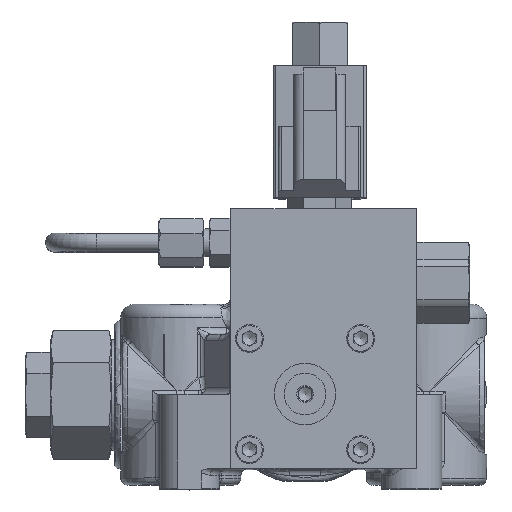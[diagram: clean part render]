
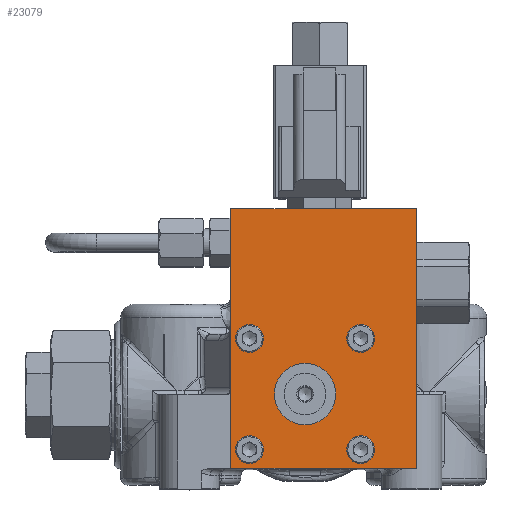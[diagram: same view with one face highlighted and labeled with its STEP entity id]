
A CAD part, top view. The second image highlights one B-rep face of the part: STEP entity #23079.
In plain terms, the highlighted planar face has unit normal (0, 0, 1).
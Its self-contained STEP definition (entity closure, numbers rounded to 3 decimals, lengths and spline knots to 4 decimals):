
#1216=FACE_BOUND('',#8044,.T.);
#1217=FACE_BOUND('',#8045,.T.);
#1218=FACE_BOUND('',#8046,.T.);
#1219=FACE_BOUND('',#8047,.T.);
#1220=FACE_BOUND('',#8048,.T.);
#2225=LINE('',#34582,#3719);
#2228=LINE('',#34587,#3722);
#2230=LINE('',#34591,#3724);
#2231=LINE('',#34592,#3725);
#3719=VECTOR('',#27717,3.5);
#3722=VECTOR('',#27722,2.5);
#3724=VECTOR('',#27726,2.5);
#3725=VECTOR('',#27727,3.5);
#6556=FACE_OUTER_BOUND('',#8043,.T.);
#8043=EDGE_LOOP('',(#16868,#16869,#16870,#16871));
#8044=EDGE_LOOP('',(#16872));
#8045=EDGE_LOOP('',(#16873));
#8046=EDGE_LOOP('',(#16874));
#8047=EDGE_LOOP('',(#16875));
#8048=EDGE_LOOP('',(#16876));
#9639=CIRCLE('',#24679,0.1875);
#9648=CIRCLE('',#24704,0.1875);
#9654=CIRCLE('',#24718,0.414);
#9667=CIRCLE('',#24740,0.1875);
#9668=CIRCLE('',#24741,0.1875);
#10840=VERTEX_POINT('',#34398);
#10861=VERTEX_POINT('',#34468);
#10883=VERTEX_POINT('',#34547);
#10896=VERTEX_POINT('',#34580);
#10897=VERTEX_POINT('',#34581);
#10898=VERTEX_POINT('',#34586);
#10899=VERTEX_POINT('',#34590);
#10900=VERTEX_POINT('',#34593);
#10901=VERTEX_POINT('',#34595);
#13107=EDGE_CURVE('',#10840,#10840,#9639,.T.);
#13140=EDGE_CURVE('',#10861,#10861,#9648,.T.);
#13165=EDGE_CURVE('',#10883,#10883,#9654,.T.);
#13178=EDGE_CURVE('',#10896,#10897,#2225,.T.);
#13181=EDGE_CURVE('',#10898,#10896,#2228,.T.);
#13183=EDGE_CURVE('',#10897,#10899,#2230,.T.);
#13184=EDGE_CURVE('',#10899,#10898,#2231,.T.);
#13185=EDGE_CURVE('',#10900,#10900,#9667,.T.);
#13186=EDGE_CURVE('',#10901,#10901,#9668,.T.);
#16868=ORIENTED_EDGE('',*,*,#13183,.F.);
#16869=ORIENTED_EDGE('',*,*,#13178,.F.);
#16870=ORIENTED_EDGE('',*,*,#13181,.F.);
#16871=ORIENTED_EDGE('',*,*,#13184,.F.);
#16872=ORIENTED_EDGE('',*,*,#13185,.T.);
#16873=ORIENTED_EDGE('',*,*,#13107,.T.);
#16874=ORIENTED_EDGE('',*,*,#13186,.T.);
#16875=ORIENTED_EDGE('',*,*,#13140,.T.);
#16876=ORIENTED_EDGE('',*,*,#13165,.T.);
#22296=PLANE('',#24739);
#23079=ADVANCED_FACE('',(#6556,#1216,#1217,#1218,#1219,#1220),#22296,.F.);
#24679=AXIS2_PLACEMENT_3D('',#34399,#27568,#27569);
#24704=AXIS2_PLACEMENT_3D('',#34469,#27642,#27643);
#24718=AXIS2_PLACEMENT_3D('',#34548,#27677,#27678);
#24739=AXIS2_PLACEMENT_3D('',#34589,#27724,#27725);
#24740=AXIS2_PLACEMENT_3D('',#34594,#27728,#27729);
#24741=AXIS2_PLACEMENT_3D('',#34596,#27730,#27731);
#27568=DIRECTION('center_axis',(0.,0.,
-1.));
#27569=DIRECTION('ref_axis',(-0.114,0.993,0.));
#27642=DIRECTION('center_axis',(0.,0.,
-1.));
#27643=DIRECTION('ref_axis',(0.803,0.595,0.));
#27677=DIRECTION('center_axis',(0.,0.,
-1.));
#27678=DIRECTION('ref_axis',(0.,1.,0.));
#27717=DIRECTION('',(0.,-1.,0.));
#27722=DIRECTION('',(1.,0.,0.));
#27724=DIRECTION('center_axis',(0.,0.,
-1.));
#27725=DIRECTION('ref_axis',(-1.,0.,0.));
#27726=DIRECTION('',(-1.,0.,0.));
#27727=DIRECTION('',(0.,1.,0.));
#27728=DIRECTION('center_axis',(0.,0.,
-1.));
#27729=DIRECTION('ref_axis',(-0.114,0.993,0.));
#27730=DIRECTION('center_axis',(0.,0.,
-1.));
#27731=DIRECTION('ref_axis',(-0.114,0.993,0.));
#34398=CARTESIAN_POINT('',(0.7286,0.9363,8.67));
#34399=CARTESIAN_POINT('Origin',(0.75,0.75,8.67));
#34468=CARTESIAN_POINT('',(-0.5994,0.8617,8.67));
#34469=CARTESIAN_POINT('Origin',(-0.75,0.75,8.67));
#34547=CARTESIAN_POINT('',(0.,0.414,8.67));
#34548=CARTESIAN_POINT('Origin',(0.,0.,
8.67));
#34580=CARTESIAN_POINT('',(1.5,2.5,8.67));
#34581=CARTESIAN_POINT('',(1.5,-1.,8.67));
#34582=CARTESIAN_POINT('',(1.5,-1.,8.67));
#34586=CARTESIAN_POINT('',(-1.,2.5,8.67));
#34587=CARTESIAN_POINT('',(1.5,2.5,8.67));
#34589=CARTESIAN_POINT('Origin',(0.25,0.75,8.67));
#34590=CARTESIAN_POINT('',(-1.,-1.,8.67));
#34591=CARTESIAN_POINT('',(-1.,-1.,8.67));
#34592=CARTESIAN_POINT('',(-1.,2.5,8.67));
#34593=CARTESIAN_POINT('',(0.7286,-0.5637,8.67));
#34594=CARTESIAN_POINT('Origin',(0.75,-0.75,8.67));
#34595=CARTESIAN_POINT('',(-0.7714,-0.5637,8.67));
#34596=CARTESIAN_POINT('Origin',(-0.75,-0.75,8.67));
